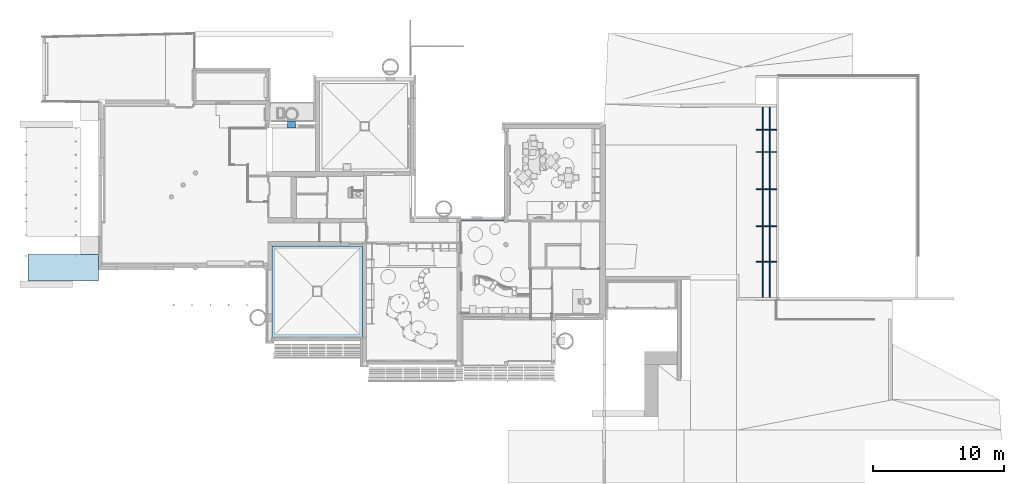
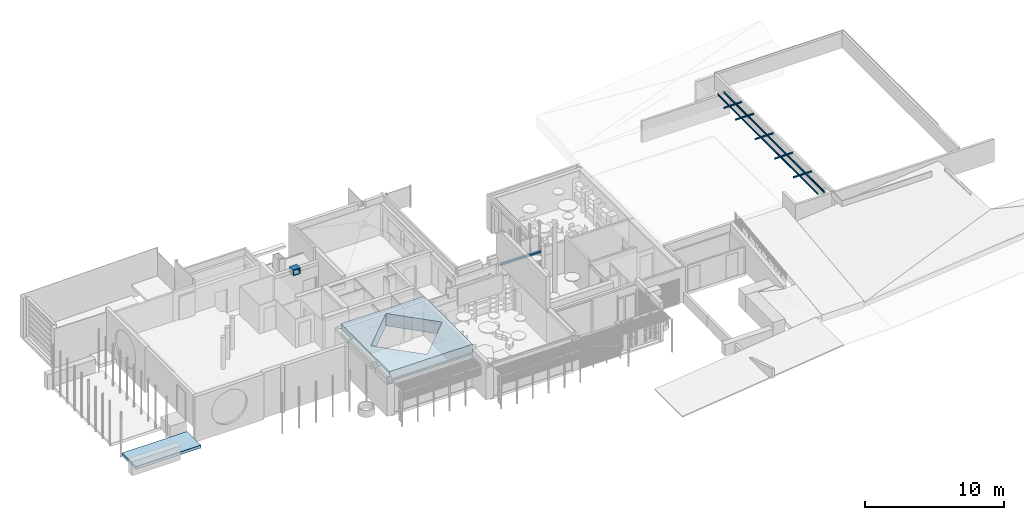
# One storey, part 7 of 64: 9 beams, 2 slabs.
"""IFC2X3 building model written with IfcOpenShell, lengths in metres."""

from ifc_helpers import new_model, entity, si_unit, converted_unit, derived_unit, direction, frame, frame_2d, origin, place, context, subcontext, project, spatial, polyline, rectangle, outline, extrude, material, layer, layer_set, layer_usage, type_object, element, save


model = new_model("IFC2X3")

# Units and contexts
model_context = context("Model", 3, precision=1e-05, world=origin(), true_north=direction((6.123031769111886e-17, 1.0)))
body_context = subcontext(model_context, "Body", "Model", "MODEL_VIEW")
ifc_project = project(units=[si_unit("LENGTHUNIT", "METRE"), si_unit("AREAUNIT", "SQUARE_METRE"), si_unit("VOLUMEUNIT", "CUBIC_METRE"), converted_unit("PLANEANGLEUNIT", "DEGREE", entity("IfcRatioMeasure", 0.017453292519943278), si_unit("PLANEANGLEUNIT", "RADIAN"), dimensions=[0, 0, 0, 0, 0, 0, 0]), si_unit("MASSUNIT", "GRAM", prefix="KILO"), derived_unit("MASSDENSITYUNIT", [(si_unit("MASSUNIT", "GRAM", prefix="KILO"), 1), (si_unit("LENGTHUNIT", "METRE"), -3)]), derived_unit("MOMENTOFINERTIAUNIT", [(si_unit("LENGTHUNIT", "METRE"), 4)]), si_unit("TIMEUNIT", "SECOND"), si_unit("FREQUENCYUNIT", "HERTZ"), si_unit("THERMODYNAMICTEMPERATUREUNIT", "DEGREE_CELSIUS"), derived_unit("THERMALTRANSMITTANCEUNIT", [(si_unit("MASSUNIT", "GRAM", prefix="KILO"), 1), (si_unit("THERMODYNAMICTEMPERATUREUNIT", "KELVIN"), -1), (si_unit("TIMEUNIT", "SECOND"), -3)]), derived_unit("THERMALCONDUCTANCEUNIT", [(si_unit("MASSUNIT", "GRAM", prefix="KILO"), 1), (si_unit("LENGTHUNIT", "METRE"), 1), (si_unit("THERMODYNAMICTEMPERATUREUNIT", "KELVIN"), -1), (si_unit("TIMEUNIT", "SECOND"), -3)]), derived_unit("VOLUMETRICFLOWRATEUNIT", [(si_unit("LENGTHUNIT", "METRE"), 3), (si_unit("TIMEUNIT", "SECOND"), -1)]), derived_unit("MASSFLOWRATEUNIT", [(si_unit("MASSUNIT", "GRAM", prefix="KILO"), 1), (si_unit("TIMEUNIT", "SECOND"), -1)]), derived_unit("ROTATIONALFREQUENCYUNIT", [(si_unit("TIMEUNIT", "SECOND"), -1)]), si_unit("ELECTRICCURRENTUNIT", "AMPERE"), si_unit("ELECTRICVOLTAGEUNIT", "VOLT"), si_unit("POWERUNIT", "WATT"), si_unit("FORCEUNIT", "NEWTON", prefix="KILO"), si_unit("ILLUMINANCEUNIT", "LUX"), si_unit("LUMINOUSFLUXUNIT", "LUMEN"), si_unit("LUMINOUSINTENSITYUNIT", "CANDELA"), derived_unit("USERDEFINED", [(si_unit("MASSUNIT", "GRAM", prefix="KILO"), -1), (si_unit("LENGTHUNIT", "METRE"), -2), (si_unit("TIMEUNIT", "SECOND"), 3), (si_unit("LUMINOUSFLUXUNIT", "LUMEN"), 1)]), derived_unit("USERDEFINED", [(si_unit("MASSUNIT", "GRAM", prefix="KILO"), 1), (si_unit("LENGTHUNIT", "METRE"), 3), (si_unit("TIMEUNIT", "SECOND"), -3), (si_unit("ELECTRICCURRENTUNIT", "AMPERE"), -2)]), derived_unit("USERDEFINED", [(si_unit("LENGTHUNIT", "METRE"), 2), (si_unit("TIMEUNIT", "SECOND"), -2)]), derived_unit("SOUNDPOWERUNIT", [(si_unit("MASSUNIT", "GRAM", prefix="KILO"), 1), (si_unit("LENGTHUNIT", "METRE"), 2), (si_unit("TIMEUNIT", "SECOND"), -3)]), derived_unit("SOUNDPRESSUREUNIT", [(si_unit("MASSUNIT", "GRAM", prefix="KILO"), 1), (si_unit("LENGTHUNIT", "METRE"), -1), (si_unit("TIMEUNIT", "SECOND"), -2)]), derived_unit("LINEARVELOCITYUNIT", [(si_unit("LENGTHUNIT", "METRE"), 1), (si_unit("TIMEUNIT", "SECOND"), -1)]), si_unit("PRESSUREUNIT", "PASCAL"), derived_unit("USERDEFINED", [(si_unit("LENGTHUNIT", "METRE"), -2), (si_unit("MASSUNIT", "GRAM", prefix="KILO"), 1), (si_unit("TIMEUNIT", "SECOND"), -2)]), derived_unit("LINEARFORCEUNIT", [(si_unit("MASSUNIT", "GRAM", prefix="KILO"), 1), (si_unit("LENGTHUNIT", "METRE"), 1), (si_unit("TIMEUNIT", "SECOND"), -2), (si_unit("LENGTHUNIT", "METRE"), -1)]), derived_unit("PLANARFORCEUNIT", [(si_unit("MASSUNIT", "GRAM", prefix="KILO"), 1), (si_unit("LENGTHUNIT", "METRE"), 1), (si_unit("TIMEUNIT", "SECOND"), -2), (si_unit("LENGTHUNIT", "METRE"), -2)]), derived_unit("SPECIFICHEATCAPACITYUNIT", [(si_unit("LENGTHUNIT", "METRE"), 2), (si_unit("TIMEUNIT", "SECOND"), -2), (si_unit("THERMODYNAMICTEMPERATUREUNIT", "KELVIN"), -1)]), derived_unit("VAPORPERMEABILITYUNIT", [(si_unit("TIMEUNIT", "SECOND"), 1), (si_unit("LENGTHUNIT", "METRE"), -1)]), derived_unit("DYNAMICVISCOSITYUNIT", [(si_unit("MASSUNIT", "GRAM", prefix="KILO"), 1), (si_unit("LENGTHUNIT", "METRE"), -1), (si_unit("TIMEUNIT", "SECOND"), -1)]), derived_unit("THERMALEXPANSIONCOEFFICIENTUNIT", [(si_unit("THERMODYNAMICTEMPERATUREUNIT", "KELVIN"), -1)])], contexts=[model_context])

# Site, building, storey
site_placement = place(None, origin())
site = spatial("IfcSite", under=ifc_project, at=site_placement, Name="Default", CompositionType="ELEMENT")
building_placement = place(site_placement, origin())
building = spatial("IfcBuilding", under=site, at=building_placement, CompositionType="ELEMENT")
storey_placement = place(building_placement, origin())
storey = spatial("IfcBuildingStorey", under=building, at=storey_placement, Name="REZ-DE-CHAUSSÉE", CompositionType="ELEMENT", Elevation=0.0)

# Beams
ifc_material_1 = material(Name="Bois - Pin granuleux horizontal")
beam_type_1 = type_object("IfcBeamType", Name="Poutre-015 274921:Poutre-015 274921", PredefinedType="NOTDEFINED")
beam_1_placement = place(storey_placement, origin())
element("IfcBeam", 1, at=beam_1_placement, inside=storey, type_object=beam_type_1, material=ifc_material_1, Name="Poutre-015", ObjectType="Poutre-015 274921:Poutre-015 274921", context=body_context, shape_type="SweptSolid", body=[
    extrude(rectangle(XDim=0.15000000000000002, YDim=0.2, at=frame_2d((1.0824674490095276e-15, 2.706168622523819e-16), x_axis=(0.0, 1.0))), frame((117.380752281, 15.2072094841, 2.475), z_axis=(1.0, 0.0, 0.0), x_axis=(0.0, -1.0, 0.0)), (0.0, 0.0, 1.0), 3.299999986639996),
])
ifc_material_2 = material(Name="Enduit - Beige nature")
beam_type_2 = type_object("IfcBeamType", Name="Poutre-011 251190:Poutre-011 251190", PredefinedType="NOTDEFINED")
beam_2_placement = place(storey_placement, origin())
element("IfcBeam", 2, at=beam_2_placement, inside=storey, type_object=beam_type_2, material=ifc_material_2, Name="Poutre-011", ObjectType="Poutre-011 251190:Poutre-011 251190", context=body_context, shape_type="SweptSolid", body=[
    extrude(outline(polyline([(-0.2700000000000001, -0.30999999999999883), (0.2700000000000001, -0.30999999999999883), (0.2700000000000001, 0.30999999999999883), (-0.2700000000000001, 0.30999999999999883), (-0.2700000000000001, -0.30999999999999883)]), holes=[polyline([(0.17000000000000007, 0.22000000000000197), (0.17000000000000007, -0.22000000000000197), (-0.17000000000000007, -0.21000000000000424), (-0.1900000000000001, 0.0), (-0.17000000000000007, 0.21000000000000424), (0.17000000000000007, 0.22000000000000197)])]), frame((104.470752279, 22.227209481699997, 2.0700000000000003), z_axis=(0.0, 1.0, 0.0), x_axis=(0.0, 0.0, 1.0)), (0.0, 0.0, 1.0), 0.510000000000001),
])
ifc_material_3 = material(Name="Peinture - Gris foncé")
beam_type_3 = type_object("IfcBeamType", Name="Poutre-019 150203:Poutre-019 150203", PredefinedType="NOTDEFINED")
beam_3_placement = place(storey_placement, origin())
element("IfcBeam", 3, at=beam_3_placement, inside=storey, type_object=beam_type_3, material=ifc_material_3, Name="Poutre-019", ObjectType="Poutre-019 150203:Poutre-019 150203", context=body_context, shape_type="SweptSolid", body=[
    extrude(outline(polyline([(0.06356000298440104, -0.0350000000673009), (0.07000000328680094, -0.0350000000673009), (0.07000000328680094, 0.03500000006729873), (0.06356000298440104, 0.03500000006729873), (0.06356000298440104, 0.0023722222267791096), (-0.06356000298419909, 0.0023722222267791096), (-0.06356000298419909, 0.03500000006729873), (-0.0700000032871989, 0.03500000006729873), (-0.0700000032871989, -0.0350000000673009), (-0.06356000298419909, -0.0350000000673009), (-0.06356000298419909, -0.0023722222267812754), (0.06356000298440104, -0.0023722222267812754), (0.06356000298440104, -0.0350000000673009)])), frame((139.91075228, 12.027209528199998, 4.169999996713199), z_axis=(1.0, 0.0, 0.0), x_axis=(0.0, 0.0, 1.0)), (0.0, 0.0, 1.0), 1.5500001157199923),
])
beam_4_placement = place(storey_placement, origin())
element("IfcBeam", 4, at=beam_4_placement, inside=storey, type_object=beam_type_3, material=ifc_material_3, Name="Poutre-019", ObjectType="Poutre-019 150203:Poutre-019 150203", context=body_context, shape_type="SweptSolid", body=[
    extrude(outline(polyline([(0.06356000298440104, -0.0350000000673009), (0.07000000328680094, -0.0350000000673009), (0.07000000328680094, 0.03500000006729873), (0.06356000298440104, 0.03500000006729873), (0.06356000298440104, 0.0023722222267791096), (-0.06356000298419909, 0.0023722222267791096), (-0.06356000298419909, 0.03500000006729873), (-0.0700000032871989, 0.03500000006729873), (-0.0700000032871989, -0.0350000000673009), (-0.06356000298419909, -0.0350000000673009), (-0.06356000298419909, -0.0023722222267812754), (0.06356000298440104, -0.0023722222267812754), (0.06356000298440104, -0.0350000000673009)])), frame((139.91075228, 14.737209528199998, 4.169999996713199), z_axis=(1.0, 0.0, 0.0), x_axis=(0.0, 0.0, 1.0)), (0.0, 0.0, 1.0), 1.5500001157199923),
])
beam_5_placement = place(storey_placement, origin())
element("IfcBeam", 5, at=beam_5_placement, inside=storey, type_object=beam_type_3, material=ifc_material_3, Name="Poutre-019", ObjectType="Poutre-019 150203:Poutre-019 150203", context=body_context, shape_type="SweptSolid", body=[
    extrude(outline(polyline([(0.06356000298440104, -0.03500000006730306), (0.07000000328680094, -0.03500000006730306), (0.07000000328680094, 0.03500000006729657), (0.06356000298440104, 0.03500000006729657), (0.06356000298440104, 0.0023722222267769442), (-0.06356000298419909, 0.0023722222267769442), (-0.06356000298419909, 0.03500000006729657), (-0.0700000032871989, 0.03500000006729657), (-0.0700000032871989, -0.03500000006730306), (-0.06356000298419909, -0.03500000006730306), (-0.06356000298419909, -0.002372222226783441), (0.06356000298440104, -0.002372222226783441), (0.06356000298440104, -0.03500000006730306)])), frame((139.91075228, 17.562209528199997, 4.169999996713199), z_axis=(1.0, 0.0, 0.0), x_axis=(0.0, 0.0, 1.0)), (0.0, 0.0, 1.0), 1.5500001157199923),
])
beam_6_placement = place(storey_placement, origin())
element("IfcBeam", 6, at=beam_6_placement, inside=storey, type_object=beam_type_3, material=ifc_material_3, Name="Poutre-019", ObjectType="Poutre-019 150203:Poutre-019 150203", context=body_context, shape_type="SweptSolid", body=[
    extrude(outline(polyline([(0.06356000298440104, -0.03500000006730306), (0.07000000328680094, -0.03500000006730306), (0.07000000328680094, 0.03500000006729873), (0.06356000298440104, 0.03500000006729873), (0.06356000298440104, 0.0023722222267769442), (-0.06356000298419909, 0.0023722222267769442), (-0.06356000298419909, 0.03500000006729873), (-0.0700000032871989, 0.03500000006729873), (-0.0700000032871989, -0.03500000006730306), (-0.06356000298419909, -0.03500000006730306), (-0.06356000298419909, -0.0023722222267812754), (0.06356000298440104, -0.0023722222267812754), (0.06356000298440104, -0.03500000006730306)])), frame((139.91075228, 20.387209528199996, 4.169999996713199), z_axis=(1.0, 0.0, 0.0), x_axis=(0.0, 0.0, 1.0)), (0.0, 0.0, 1.0), 1.5500001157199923),
])
beam_7_placement = place(storey_placement, origin())
element("IfcBeam", 7, at=beam_7_placement, inside=storey, type_object=beam_type_3, material=ifc_material_3, Name="Poutre-019", ObjectType="Poutre-019 150203:Poutre-019 150203", context=body_context, shape_type="SweptSolid", body=[
    extrude(outline(polyline([(0.06356000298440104, -0.03500000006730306), (0.07000000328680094, -0.03500000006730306), (0.07000000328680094, 0.03500000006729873), (0.06356000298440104, 0.03500000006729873), (0.06356000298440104, 0.0023722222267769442), (-0.06356000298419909, 0.0023722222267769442), (-0.06356000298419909, 0.03500000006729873), (-0.0700000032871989, 0.03500000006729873), (-0.0700000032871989, -0.03500000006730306), (-0.06356000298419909, -0.03500000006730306), (-0.06356000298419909, -0.0023722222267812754), (0.06356000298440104, -0.0023722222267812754), (0.06356000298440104, -0.03500000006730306)])), frame((139.91075228, 22.097209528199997, 4.169999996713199), z_axis=(1.0, 0.0, 0.0), x_axis=(0.0, 0.0, 1.0)), (0.0, 0.0, 1.0), 1.5500001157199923),
])
beam_type_4 = type_object("IfcBeamType", Name="Poutre-019 150105:Poutre-019 150105", PredefinedType="NOTDEFINED")
beam_8_placement = place(storey_placement, origin())
element("IfcBeam", 8, at=beam_8_placement, inside=storey, type_object=beam_type_4, material=ifc_material_3, Name="Poutre-019", ObjectType="Poutre-019 150105:Poutre-019 150105", context=body_context, shape_type="SweptSolid", body=[
    extrude(outline(polyline([(-0.03500000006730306, -0.06356000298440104), (-0.03500000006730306, -0.07000000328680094), (0.03500000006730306, -0.07000000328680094), (0.03500000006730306, -0.06356000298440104), (0.002372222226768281, -0.06356000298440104), (0.002372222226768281, 0.06356000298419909), (0.03500000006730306, 0.06356000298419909), (0.03500000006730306, 0.0700000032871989), (-0.03500000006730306, 0.0700000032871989), (-0.03500000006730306, 0.06356000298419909), (-0.002372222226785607, 0.06356000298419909), (-0.002372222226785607, -0.06356000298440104), (-0.03500000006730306, -0.06356000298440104)])), frame((140.940127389, 9.2872095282, 4.169999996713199), z_axis=(0.0, -1.0, 0.0), x_axis=(-1.0, 0.0, 0.0)), (0.0, 0.0, -1.0), 14.549999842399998),
])
beam_9_placement = place(storey_placement, origin())
element("IfcBeam", 9, at=beam_9_placement, inside=storey, type_object=beam_type_4, material=ifc_material_3, Name="Poutre-019", ObjectType="Poutre-019 150105:Poutre-019 150105", context=body_context, shape_type="SweptSolid", body=[
    extrude(outline(polyline([(-0.03500000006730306, -0.06356000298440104), (-0.03500000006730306, -0.07000000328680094), (0.03500000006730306, -0.07000000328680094), (0.03500000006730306, -0.06356000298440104), (0.002372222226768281, -0.06356000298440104), (0.002372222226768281, 0.06356000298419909), (0.03500000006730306, 0.06356000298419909), (0.03500000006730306, 0.0700000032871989), (-0.03500000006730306, 0.0700000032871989), (-0.03500000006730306, 0.06356000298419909), (-0.002372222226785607, 0.06356000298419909), (-0.002372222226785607, -0.06356000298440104), (-0.03500000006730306, -0.06356000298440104)])), frame((140.42012738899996, 9.2872095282, 4.169999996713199), z_axis=(0.0, -1.0, 0.0), x_axis=(-1.0, 0.0, 0.0)), (0.0, 0.0, -1.0), 14.549999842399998),
])

# Slabs
slab_type_1 = type_object("IfcSlabType", Name="Dalle-010", PredefinedType="FLOOR")
slab_1_placement = place(storey_placement, origin())
element("IfcSlab", 10, at=slab_1_placement, inside=storey, type_object=slab_type_1, Name="Dalle-010:Dalle-010", ObjectType="Dalle-010:Dalle-010", PredefinedType="FLOOR", context=body_context, shape_type="SweptSolid", body=[
    extrude(outline(polyline([(-3.4599999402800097, -3.4899999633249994), (3.4599999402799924, -3.4899999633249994), (3.4599999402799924, 3.4899999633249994), (-3.4599999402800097, 3.4899999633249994), (-3.4599999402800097, -3.4899999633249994)]), holes=[polyline([(-2.9748484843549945, 0.005000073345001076), (-0.004999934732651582, 2.9748486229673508), (2.964848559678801, 0.005000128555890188), (-0.0049999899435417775, -2.9648484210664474), (-2.9748484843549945, 0.005000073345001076)])]), frame((106.42075222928, 9.747209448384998, 2.3999999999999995)), (0.0, 0.0, 1.0), 1.1),
])
ifc_material_4 = material(Name="Env. - Herbe verte")
ifc_layer = layer(ifc_material_4, 0.24999999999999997)
ifc_layer_set = layer_set([ifc_layer], Name="Sol:Dalle-006:1397")
ifc_layer_usage = layer_usage(ifc_layer_set, "AXIS3", "POSITIVE", 0.0)
slab_type_2 = type_object("IfcSlabType", Name="Sol:Dalle-006:1397", PredefinedType="FLOOR", material=ifc_layer_set)
slab_2_placement = place(storey_placement, origin())
element("IfcSlab", 11, at=slab_2_placement, inside=storey, type_object=slab_type_2, material=ifc_layer_usage, Name="Sol:Dalle-006:1397", ObjectType="Sol:Dalle-006:1397", PredefinedType="FLOOR", context=body_context, shape_type="SweptSolid", body=[
    extrude(rectangle(XDim=1.999999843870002, YDim=5.400000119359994, at=frame_2d((1.1102230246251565e-15, -8.659739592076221e-15), x_axis=(1.0, 0.0))), frame((87.05075233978, 11.557209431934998, -0.9499999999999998), z_axis=(0.0, 0.0, -1.0), x_axis=(0.0, 1.0, 0.0)), (0.0, 0.0, 1.0), 0.25),
])

save(model, "model.ifc")
